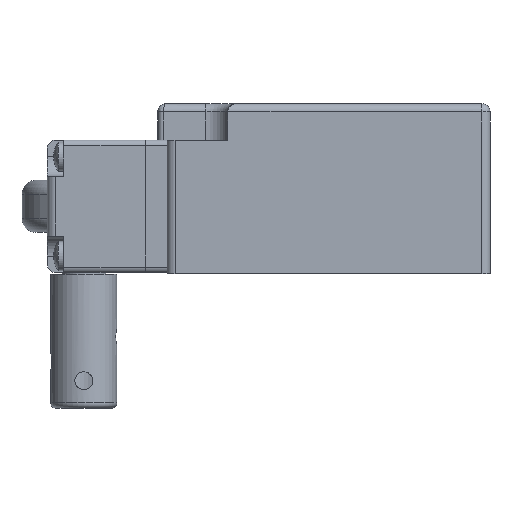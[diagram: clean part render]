
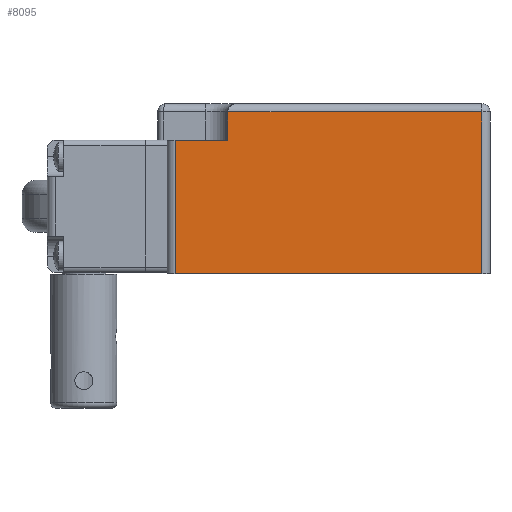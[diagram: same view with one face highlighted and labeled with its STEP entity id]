
A CAD part, left-side view. The second image highlights one B-rep face of the part: STEP entity #8095.
In plain terms, the highlighted planar face has unit normal (-1, 0, 0).
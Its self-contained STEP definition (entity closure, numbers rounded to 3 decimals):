
#3191 = VERTEX_POINT ( 'NONE', #13007 ) ;
#3437 = ORIENTED_EDGE ( 'NONE', *, *, #8078, .T. ) ;
#4407 = ORIENTED_EDGE ( 'NONE', *, *, #10873, .T. ) ;
#4922 = EDGE_CURVE ( 'NONE', #13421, #10874, #13001, .T. ) ;
#5176 = ORIENTED_EDGE ( 'NONE', *, *, #4922, .T. ) ;
#8078 = EDGE_CURVE ( 'NONE', #10871, #3191, #13160, .T. ) ;
#8079 = ORIENTED_EDGE ( 'NONE', *, *, #8080, .T. ) ;
#8080 = EDGE_CURVE ( 'NONE', #3191, #8081, #13156, .T. ) ;
#8081 = VERTEX_POINT ( 'NONE', #13152 ) ;
#8082 = ORIENTED_EDGE ( 'NONE', *, *, #8083, .F. ) ;
#8083 = EDGE_CURVE ( 'NONE', #13420, #8081, #13151, .T. ) ;
#8095 = ADVANCED_FACE ( 'NONE', ( #13188 ), #13186, .F. ) ;
#8096 = EDGE_LOOP ( 'NONE', ( #8097, #5176, #4407, #3437, #8079, #8082 ) ) ;
#8097 = ORIENTED_EDGE ( 'NONE', *, *, #8098, .F. ) ;
#8098 = EDGE_CURVE ( 'NONE', #13421, #13420, #13187, .T. ) ;
#10871 = VERTEX_POINT ( 'NONE', #14877 ) ;
#10873 = EDGE_CURVE ( 'NONE', #10874, #10871, #14876, .T. ) ;
#10874 = VERTEX_POINT ( 'NONE', #14872 ) ;
#12998 = DIRECTION ( 'NONE',  ( 0., 0., -1. ) ) ;
#12999 = VECTOR ( 'NONE', #12998, 1000. ) ;
#13000 = CARTESIAN_POINT ( 'NONE',  ( -15.4, 5.5, 18.6 ) ) ;
#13001 = LINE ( 'NONE', #13000, #12999 ) ;
#13007 = CARTESIAN_POINT ( 'NONE',  ( -15.4, -50., 17.1 ) ) ;
#13148 = DIRECTION ( 'NONE',  ( 0., 0., 1. ) ) ;
#13149 = VECTOR ( 'NONE', #13148, 1000. ) ;
#13150 = CARTESIAN_POINT ( 'NONE',  ( -15.4, -4., 12. ) ) ;
#13151 = LINE ( 'NONE', #13150, #13149 ) ;
#13152 = CARTESIAN_POINT ( 'NONE',  ( -15.4, -4., 17.1 ) ) ;
#13153 = DIRECTION ( 'NONE',  ( 0., 1., 0. ) ) ;
#13154 = VECTOR ( 'NONE', #13153, 1000. ) ;
#13155 = CARTESIAN_POINT ( 'NONE',  ( -15.4, -51.5, 17.1 ) ) ;
#13156 = LINE ( 'NONE', #13155, #13154 ) ;
#13157 = DIRECTION ( 'NONE',  ( 0., 0., 1. ) ) ;
#13158 = VECTOR ( 'NONE', #13157, 1000. ) ;
#13159 = CARTESIAN_POINT ( 'NONE',  ( -15.4, -50., 18.6 ) ) ;
#13160 = LINE ( 'NONE', #13159, #13158 ) ;
#13179 = DIRECTION ( 'NONE',  ( 0., -1., 0. ) ) ;
#13180 = VECTOR ( 'NONE', #13179, 1000. ) ;
#13181 = CARTESIAN_POINT ( 'NONE',  ( -15.4, 7., 12. ) ) ;
#13182 = DIRECTION ( 'NONE',  ( 0., 0., -1. ) ) ;
#13183 = DIRECTION ( 'NONE',  ( 1., 0., 0. ) ) ;
#13184 = CARTESIAN_POINT ( 'NONE',  ( -15.4, -51.5, 18.6 ) ) ;
#13185 = AXIS2_PLACEMENT_3D ( 'NONE', #13184, #13183, #13182 ) ;
#13186 = PLANE ( 'NONE',  #13185 ) ;
#13187 = LINE ( 'NONE', #13181, #13180 ) ;
#13188 = FACE_OUTER_BOUND ( 'NONE', #8096, .T. ) ;
#13420 = VERTEX_POINT ( 'NONE', #19139 ) ;
#13421 = VERTEX_POINT ( 'NONE', #19138 ) ;
#14872 = CARTESIAN_POINT ( 'NONE',  ( -15.4, 5.5, -12.2 ) ) ;
#14873 = DIRECTION ( 'NONE',  ( 0., -1., 0. ) ) ;
#14874 = VECTOR ( 'NONE', #14873, 1000. ) ;
#14875 = CARTESIAN_POINT ( 'NONE',  ( -15.4, -51.5, -12.2 ) ) ;
#14876 = LINE ( 'NONE', #14875, #14874 ) ;
#14877 = CARTESIAN_POINT ( 'NONE',  ( -15.4, -50., -12.2 ) ) ;
#19138 = CARTESIAN_POINT ( 'NONE',  ( -15.4, 5.5, 12. ) ) ;
#19139 = CARTESIAN_POINT ( 'NONE',  ( -15.4, -4., 12. ) ) ;
